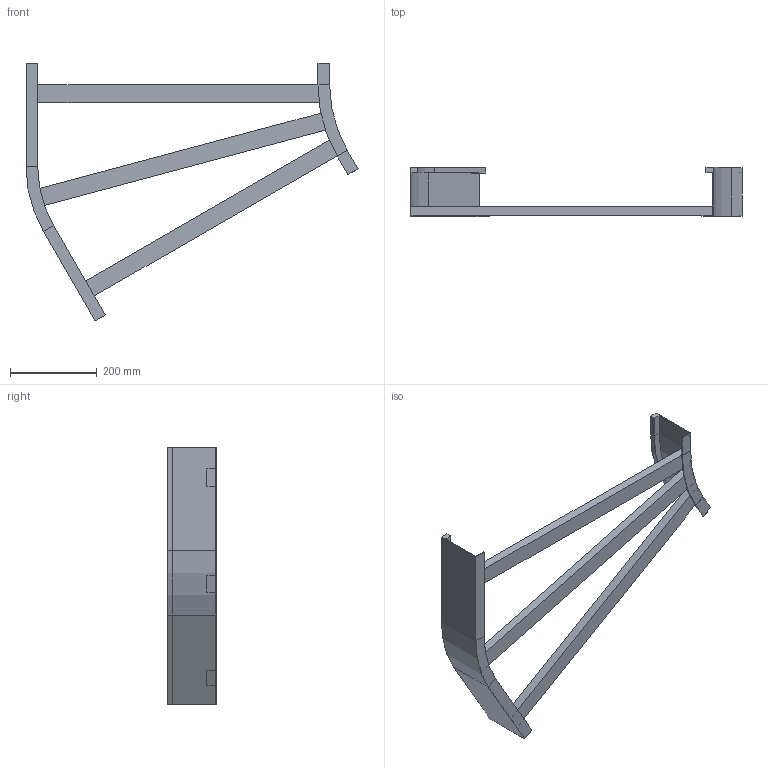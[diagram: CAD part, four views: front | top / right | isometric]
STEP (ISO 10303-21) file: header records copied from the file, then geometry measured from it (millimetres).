
FILE_DESCRIPTION (( 'STEP AP214' ), '1' );
FILE_NAME ('B2_12B3J700.step', '2025-02-21T15:09:42', ( '' ), ( '' ), 'SwSTEP 2.0', 'SolidWorks 2023', '' );
FILE_SCHEMA (( 'AUTOMOTIVE_DESIGN' ));
Length unit declared in the file: millimetre
Products named in the file (5): B2_12B3J700; B2_LONGH.INTERNO 30°_H112.5_R300; B2_LONGH.ESTERNO 30°_H112.5_R300+700; TRAVERSINO_L719; TRAVERSINO_700
Assembly tree (5 placements, depth 2):
  B2_12B3J700
    B2_LONGH.INTERNO 30°_H112.5_R300
    B2_LONGH.ESTERNO 30°_H112.5_R300+700
    TRAVERSINO_700  x2
    TRAVERSINO_L719
Bounding box: 765.19 x 112.5 x 593.3 mm (x, y, z)
Volume: 2125207.6 mm3; surface area: 538727.6 mm2
Topology: 5 solids, 5 shells, 70 faces, 148 edges, 88 vertices
Faces by surface type: plane 62, cylinder 8
Entity records: 1822 total; most frequent: DIRECTION 296, CARTESIAN_POINT 288, ORIENTED_EDGE 272, EDGE_CURVE 136, LINE 120, VECTOR 120, AXIS2_PLACEMENT_3D 88, VERTEX_POINT 80
